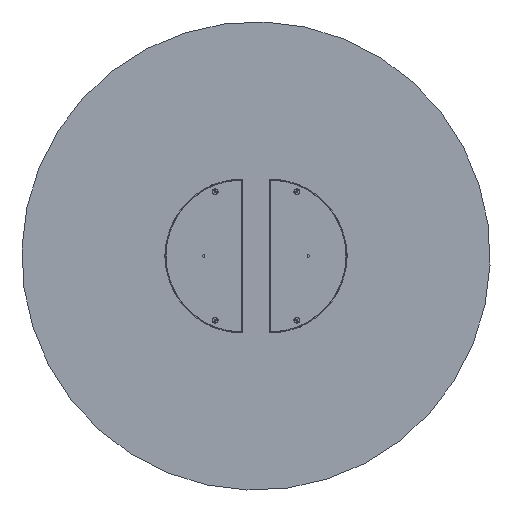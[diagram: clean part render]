
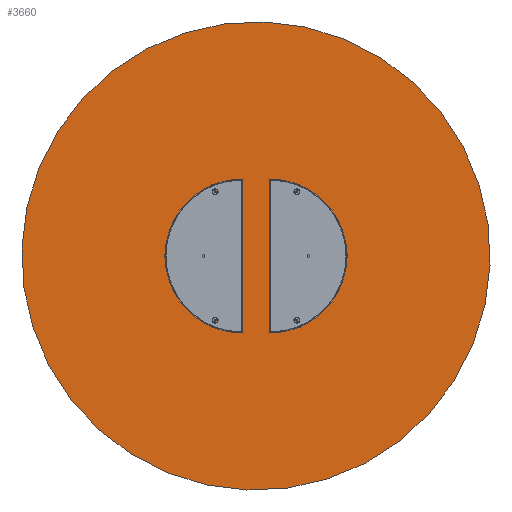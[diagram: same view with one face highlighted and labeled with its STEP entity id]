
A CAD part, front view. The second image highlights one B-rep face of the part: STEP entity #3660.
In plain terms, the highlighted planar face has unit normal (0, -1, 0).
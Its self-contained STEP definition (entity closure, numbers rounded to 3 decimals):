
#251 = CARTESIAN_POINT ( 'NONE',  ( 0., 0., 0. ) ) ;
#628 = CARTESIAN_POINT ( 'NONE',  ( 0., 0., 0. ) ) ;
#789 = DIRECTION ( 'NONE',  ( 0., 0., -1. ) ) ;
#972 = CARTESIAN_POINT ( 'NONE',  ( 0., 0., 700. ) ) ;
#1389 = CIRCLE ( 'NONE', #7154, 700. ) ;
#1420 = FACE_OUTER_BOUND ( 'NONE', #8107, .T. ) ;
#1830 = EDGE_CURVE ( 'NONE', #4959, #4808, #5488, .T. ) ;
#1953 = PLANE ( 'NONE',  #7717 ) ;
#1954 = CARTESIAN_POINT ( 'NONE',  ( 0., 0., -700. ) ) ;
#2004 = CARTESIAN_POINT ( 'NONE',  ( 0., 0., 0. ) ) ;
#2936 = DIRECTION ( 'NONE',  ( 0., 0., -1. ) ) ;
#3660 = ADVANCED_FACE ( 'NONE', ( #1420 ), #1953, .T. ) ;
#4130 = DIRECTION ( 'NONE',  ( 0., -1., 0. ) ) ;
#4667 = AXIS2_PLACEMENT_3D ( 'NONE', #628, #7242, #8528 ) ;
#4808 = VERTEX_POINT ( 'NONE', #972 ) ;
#4959 = VERTEX_POINT ( 'NONE', #1954 ) ;
#5488 = CIRCLE ( 'NONE', #4667, 700. ) ;
#5684 = ORIENTED_EDGE ( 'NONE', *, *, #7134, .T. ) ;
#6146 = ORIENTED_EDGE ( 'NONE', *, *, #1830, .T. ) ;
#7008 = DIRECTION ( 'NONE',  ( 0., -1., 0. ) ) ;
#7134 = EDGE_CURVE ( 'NONE', #4808, #4959, #1389, .T. ) ;
#7154 = AXIS2_PLACEMENT_3D ( 'NONE', #251, #7008, #2936 ) ;
#7242 = DIRECTION ( 'NONE',  ( 0., -1., 0. ) ) ;
#7717 = AXIS2_PLACEMENT_3D ( 'NONE', #2004, #4130, #789 ) ;
#8107 = EDGE_LOOP ( 'NONE', ( #6146, #5684 ) ) ;
#8528 = DIRECTION ( 'NONE',  ( 0., 0., -1. ) ) ;
